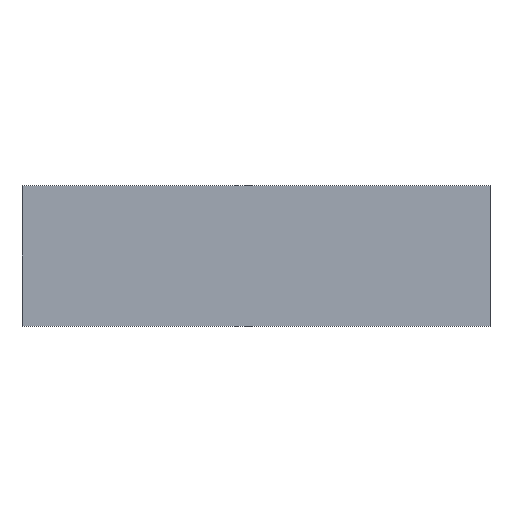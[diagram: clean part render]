
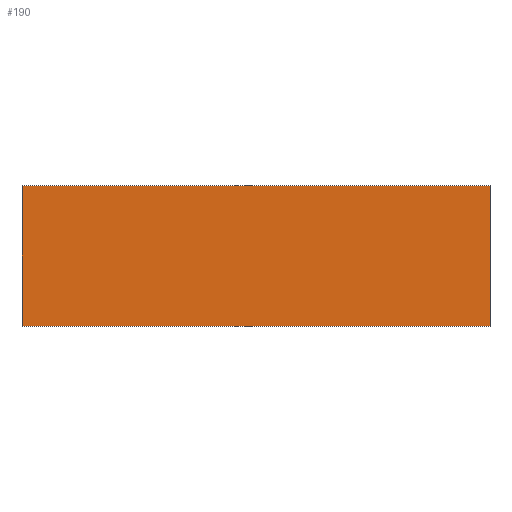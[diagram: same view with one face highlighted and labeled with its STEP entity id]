
A CAD part, left-side view. The second image highlights one B-rep face of the part: STEP entity #190.
In plain terms, the highlighted planar face has unit normal (-1, 0, 0).
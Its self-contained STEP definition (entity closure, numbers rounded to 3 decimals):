
#66=ORIENTED_EDGE('',*,*,#81,.T.);
#67=ORIENTED_EDGE('',*,*,#96,.F.);
#68=ORIENTED_EDGE('',*,*,#83,.F.);
#69=ORIENTED_EDGE('',*,*,#97,.T.);
#81=EDGE_CURVE('',#99,#105,#119,.T.);
#83=EDGE_CURVE('',#107,#108,#121,.T.);
#96=EDGE_CURVE('',#108,#105,#132,.T.);
#97=EDGE_CURVE('',#107,#99,#133,.T.);
#99=VERTEX_POINT('',#273);
#105=VERTEX_POINT('',#285);
#107=VERTEX_POINT('',#290);
#108=VERTEX_POINT('',#292);
#119=LINE('',#286,#139);
#121=LINE('',#291,#141);
#132=LINE('',#316,#152);
#133=LINE('',#318,#153);
#139=VECTOR('',#232,1000.);
#141=VECTOR('',#236,1000.);
#152=VECTOR('',#263,1000.);
#153=VECTOR('',#266,1000.);
#162=EDGE_LOOP('',(#66,#67,#68,#69));
#172=FACE_BOUND('',#162,.T.);
#180=PLANE('',#217);
#190=ADVANCED_FACE('',(#172),#180,.F.);
#217=AXIS2_PLACEMENT_3D('',#317,#264,#265);
#232=DIRECTION('',(0.,0.,-1.));
#236=DIRECTION('',(0.,0.,-1.));
#263=DIRECTION('',(0.,1.,0.));
#264=DIRECTION('',(1.,0.,0.));
#265=DIRECTION('',(0.,1.,0.));
#266=DIRECTION('',(0.,1.,0.));
#273=CARTESIAN_POINT('',(1036.72,1670.285,1030.));
#285=CARTESIAN_POINT('',(1036.72,1670.285,1000.));
#286=CARTESIAN_POINT('',(1036.72,1670.285,1030.));
#290=CARTESIAN_POINT('',(1036.72,1570.285,1030.));
#291=CARTESIAN_POINT('',(1036.72,1570.285,1030.));
#292=CARTESIAN_POINT('',(1036.72,1570.285,1000.));
#316=CARTESIAN_POINT('',(1036.72,670.285,1000.));
#317=CARTESIAN_POINT('',(1036.72,670.285,1030.));
#318=CARTESIAN_POINT('',(1036.72,670.285,1030.));
